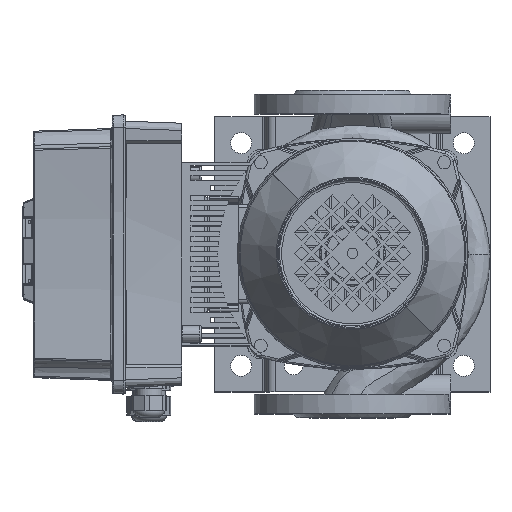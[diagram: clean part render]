
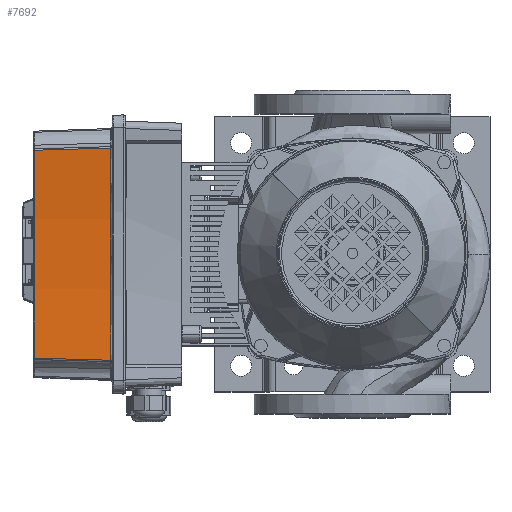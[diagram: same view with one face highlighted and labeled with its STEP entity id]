
A CAD part, top view. The second image highlights one B-rep face of the part: STEP entity #7692.
In plain terms, the highlighted conical face has half-angle 2 degrees and reference radius 845 mm.
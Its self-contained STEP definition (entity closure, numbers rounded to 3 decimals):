
#7692=ADVANCED_FACE('',(#15873),#15874,.F.);
#15873=FACE_OUTER_BOUND('',#37300,.T.);
#15874=CONICAL_SURFACE('',#37301,845.0,0.035);
#37300=EDGE_LOOP('',(#59166,#59167,#59168,#59169));
#37301=AXIS2_PLACEMENT_3D('',#59170,#59171,#59172);
#59166=ORIENTED_EDGE('',*,*,#95641,.F.);
#59167=ORIENTED_EDGE('',*,*,#95696,.F.);
#59168=ORIENTED_EDGE('',*,*,#95657,.F.);
#59169=ORIENTED_EDGE('',*,*,#95685,.F.);
#59170=CARTESIAN_POINT('',(-110.0,1132.065,60.0));
#59171=DIRECTION('',(0.,-0.0,-1.0));
#59172=DIRECTION('',(1.0,0.0,0.));
#95641=EDGE_CURVE('',#124454,#124460,#124461,.T.);
#95657=EDGE_CURVE('',#124481,#124473,#124483,.T.);
#95685=EDGE_CURVE('',#124460,#124481,#124513,.T.);
#95696=EDGE_CURVE('',#124473,#124454,#124525,.T.);
#124454=VERTEX_POINT('',#151998);
#124460=VERTEX_POINT('',#152040);
#124461=B_SPLINE_CURVE_WITH_KNOTS('',3,(#152041,#152042,#152043,#152044,#152045,#152046,#152047,#152048,#152049,#152050,#152051,#152052,#152053,#152054,#152055,#152056,#152057,#152058,#152059,#152060,#152061,#152062,#152063,#152064,#152065),.UNSPECIFIED.,.F.,.F.,(4,3,3,3,3,3,3,3,4),(-60.14,-51.629,-41.43,-35.057,-31.073,-27.089,-20.715,-10.517,-2.006),.UNSPECIFIED.);
#124473=VERTEX_POINT('',#152154);
#124481=VERTEX_POINT('',#152215);
#124483=B_SPLINE_CURVE_WITH_KNOTS('',3,(#152230,#152231,#152232,#152233,#152234,#152235,#152236,#152237,#152238,#152239,#152240,#152241,#152242,#152243,#152244,#152245,#152246,#152247,#152248,#152249,#152250,#152251,#152252,#152253,#152254),.UNSPECIFIED.,.F.,.F.,(4,3,3,3,3,3,3,3,4),(2.006,10.517,20.716,27.09,31.073,35.057,41.431,51.63,60.14),.UNSPECIFIED.);
#124513=CIRCLE('',#152445,847.062);
#124525=CIRCLE('',#152473,845.034);
#151998=CARTESIAN_POINT('',(-190.987,290.921,59.035));
#152040=CARTESIAN_POINT('',(-189.365,288.73,0.965));
#152041=CARTESIAN_POINT('',(-190.987,290.921,59.035));
#152042=CARTESIAN_POINT('',(-190.902,290.814,56.201));
#152043=CARTESIAN_POINT('',(-190.819,290.706,53.368));
#152044=CARTESIAN_POINT('',(-190.736,290.599,50.534));
#152045=CARTESIAN_POINT('',(-190.637,290.47,47.138));
#152046=CARTESIAN_POINT('',(-190.539,290.342,43.743));
#152047=CARTESIAN_POINT('',(-190.442,290.214,40.347));
#152048=CARTESIAN_POINT('',(-190.381,290.133,38.225));
#152049=CARTESIAN_POINT('',(-190.321,290.053,36.103));
#152050=CARTESIAN_POINT('',(-190.261,289.973,33.98));
#152051=CARTESIAN_POINT('',(-190.224,289.923,32.654));
#152052=CARTESIAN_POINT('',(-190.187,289.873,31.327));
#152053=CARTESIAN_POINT('',(-190.15,289.823,30.001));
#152054=CARTESIAN_POINT('',(-190.113,289.773,28.675));
#152055=CARTESIAN_POINT('',(-190.076,289.723,27.348));
#152056=CARTESIAN_POINT('',(-190.04,289.673,26.022));
#152057=CARTESIAN_POINT('',(-189.981,289.593,23.899));
#152058=CARTESIAN_POINT('',(-189.923,289.513,21.777));
#152059=CARTESIAN_POINT('',(-189.865,289.433,19.655));
#152060=CARTESIAN_POINT('',(-189.772,289.305,16.259));
#152061=CARTESIAN_POINT('',(-189.681,289.177,12.863));
#152062=CARTESIAN_POINT('',(-189.59,289.049,9.467));
#152063=CARTESIAN_POINT('',(-189.515,288.943,6.633));
#152064=CARTESIAN_POINT('',(-189.44,288.836,3.799));
#152065=CARTESIAN_POINT('',(-189.365,288.73,0.965));
#152154=CARTESIAN_POINT('',(-29.013,290.921,59.035));
#152215=CARTESIAN_POINT('',(-30.635,288.73,0.965));
#152230=CARTESIAN_POINT('',(-30.635,288.73,0.965));
#152231=CARTESIAN_POINT('',(-30.56,288.836,3.799));
#152232=CARTESIAN_POINT('',(-30.485,288.943,6.633));
#152233=CARTESIAN_POINT('',(-30.41,289.049,9.467));
#152234=CARTESIAN_POINT('',(-30.319,289.177,12.863));
#152235=CARTESIAN_POINT('',(-30.228,289.305,16.259));
#152236=CARTESIAN_POINT('',(-30.135,289.433,19.654));
#152237=CARTESIAN_POINT('',(-30.077,289.513,21.777));
#152238=CARTESIAN_POINT('',(-30.019,289.593,23.899));
#152239=CARTESIAN_POINT('',(-29.96,289.673,26.022));
#152240=CARTESIAN_POINT('',(-29.924,289.723,27.348));
#152241=CARTESIAN_POINT('',(-29.887,289.773,28.674));
#152242=CARTESIAN_POINT('',(-29.85,289.823,30.001));
#152243=CARTESIAN_POINT('',(-29.813,289.873,31.327));
#152244=CARTESIAN_POINT('',(-29.776,289.923,32.654));
#152245=CARTESIAN_POINT('',(-29.739,289.973,33.98));
#152246=CARTESIAN_POINT('',(-29.679,290.053,36.103));
#152247=CARTESIAN_POINT('',(-29.619,290.133,38.225));
#152248=CARTESIAN_POINT('',(-29.558,290.214,40.347));
#152249=CARTESIAN_POINT('',(-29.461,290.342,43.743));
#152250=CARTESIAN_POINT('',(-29.363,290.47,47.139));
#152251=CARTESIAN_POINT('',(-29.264,290.599,50.534));
#152252=CARTESIAN_POINT('',(-29.181,290.706,53.368));
#152253=CARTESIAN_POINT('',(-29.098,290.814,56.201));
#152254=CARTESIAN_POINT('',(-29.013,290.921,59.035));
#152445=AXIS2_PLACEMENT_3D('',#182216,#182217,#182218);
#152473=AXIS2_PLACEMENT_3D('',#182228,#182229,#182230);
#182216=CARTESIAN_POINT('',(-110.0,1132.065,0.965));
#182217=DIRECTION('',(0.,0.,1.0));
#182218=DIRECTION('',(0.0,-1.0,0.));
#182228=CARTESIAN_POINT('',(-110.0,1132.065,59.035));
#182229=DIRECTION('',(-0.0,-0.0,-1.0));
#182230=DIRECTION('',(0.0,-1.0,0.0));
